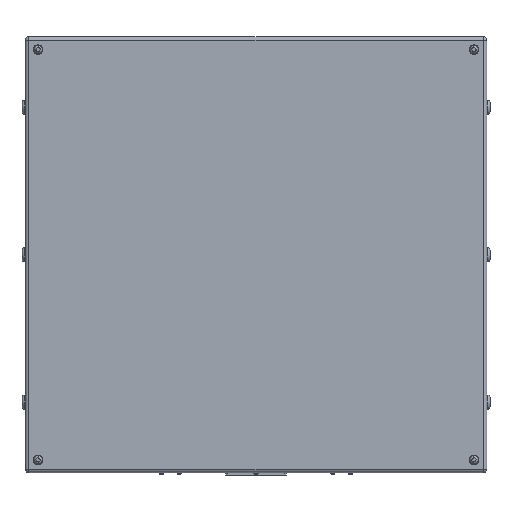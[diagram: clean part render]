
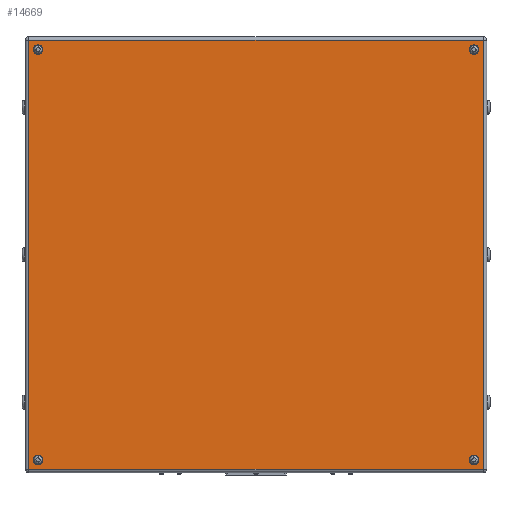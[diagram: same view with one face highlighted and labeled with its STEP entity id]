
A CAD part, front view. The second image highlights one B-rep face of the part: STEP entity #14669.
In plain terms, the highlighted planar face has unit normal (0, -1, 0).
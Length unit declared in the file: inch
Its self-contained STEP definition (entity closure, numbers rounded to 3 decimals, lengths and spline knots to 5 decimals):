
#57 = DIRECTION ( 'NONE',  ( 0., -1., 0. ) ) ;
#187 = DIRECTION ( 'NONE',  ( 0., 0., 1. ) ) ;
#259 = CARTESIAN_POINT ( 'NONE',  ( 0., -9., 0. ) ) ;
#268 = LINE ( 'NONE', #4791, #3465 ) ;
#317 = ORIENTED_EDGE ( 'NONE', *, *, #14671, .T. ) ;
#364 = CIRCLE ( 'NONE', #1766, 0.37402 ) ;
#512 = ORIENTED_EDGE ( 'NONE', *, *, #981, .F. ) ;
#700 = CARTESIAN_POINT ( 'NONE',  ( 17., -9., 16.37402 ) ) ;
#799 = CARTESIAN_POINT ( 'NONE',  ( 17.734, -9., 16.734 ) ) ;
#813 = VERTEX_POINT ( 'NONE', #12025 ) ;
#981 = EDGE_CURVE ( 'NONE', #14418, #6608, #13649, .T. ) ;
#1062 = ORIENTED_EDGE ( 'NONE', *, *, #4721, .F. ) ;
#1237 = CARTESIAN_POINT ( 'NONE',  ( -17., -9., -15.62598 ) ) ;
#1285 = VECTOR ( 'NONE', #13470, 39.37008 ) ;
#1585 = DIRECTION ( 'NONE',  ( 0., 0., -1. ) ) ;
#1766 = AXIS2_PLACEMENT_3D ( 'NONE', #2661, #13171, #3946 ) ;
#1869 = DIRECTION ( 'NONE',  ( 0., -1., 0. ) ) ;
#1904 = DIRECTION ( 'NONE',  ( 0., 0., -1. ) ) ;
#1933 = AXIS2_PLACEMENT_3D ( 'NONE', #3354, #12957, #187 ) ;
#2390 = CIRCLE ( 'NONE', #1933, 0.37402 ) ;
#2397 = DIRECTION ( 'NONE',  ( 0., -1., 0. ) ) ;
#2548 = CARTESIAN_POINT ( 'NONE',  ( 17.734, -9., -16.734 ) ) ;
#2661 = CARTESIAN_POINT ( 'NONE',  ( -17., -9., 16. ) ) ;
#2977 = LINE ( 'NONE', #7528, #1285 ) ;
#3188 = VERTEX_POINT ( 'NONE', #6455 ) ;
#3240 = ORIENTED_EDGE ( 'NONE', *, *, #5257, .F. ) ;
#3354 = CARTESIAN_POINT ( 'NONE',  ( 17., -9., -16. ) ) ;
#3423 = ORIENTED_EDGE ( 'NONE', *, *, #11223, .F. ) ;
#3465 = VECTOR ( 'NONE', #12099, 39.37008 ) ;
#3494 = CARTESIAN_POINT ( 'NONE',  ( -17.734, -9., -16.734 ) ) ;
#3520 = ORIENTED_EDGE ( 'NONE', *, *, #7744, .F. ) ;
#3592 = CARTESIAN_POINT ( 'NONE',  ( 17., -9., 16. ) ) ;
#3593 = EDGE_CURVE ( 'NONE', #813, #3188, #2390, .T. ) ;
#3652 = DIRECTION ( 'NONE',  ( 0., -1., 0. ) ) ;
#3674 = FACE_BOUND ( 'NONE', #13302, .T. ) ;
#3755 = PLANE ( 'NONE',  #7027 ) ;
#3946 = DIRECTION ( 'NONE',  ( 0., 0., -1. ) ) ;
#4005 = ORIENTED_EDGE ( 'NONE', *, *, #12600, .T. ) ;
#4033 = FACE_BOUND ( 'NONE', #8879, .T. ) ;
#4227 = ORIENTED_EDGE ( 'NONE', *, *, #4575, .T. ) ;
#4462 = EDGE_CURVE ( 'NONE', #7539, #11220, #12058, .T. ) ;
#4491 = CARTESIAN_POINT ( 'NONE',  ( -17., -9., 15.62598 ) ) ;
#4575 = EDGE_CURVE ( 'NONE', #11220, #7775, #2977, .T. ) ;
#4721 = EDGE_CURVE ( 'NONE', #3188, #813, #6519, .T. ) ;
#4791 = CARTESIAN_POINT ( 'NONE',  ( -17.734, -9., 16.734 ) ) ;
#4865 = CIRCLE ( 'NONE', #14478, 0.37402 ) ;
#4998 = DIRECTION ( 'NONE',  ( 0., 0., -1. ) ) ;
#5257 = EDGE_CURVE ( 'NONE', #10229, #13881, #9930, .T. ) ;
#5321 = DIRECTION ( 'NONE',  ( 0., -1., 0. ) ) ;
#5348 = AXIS2_PLACEMENT_3D ( 'NONE', #6510, #13218, #6375 ) ;
#5503 = ORIENTED_EDGE ( 'NONE', *, *, #3593, .F. ) ;
#5572 = AXIS2_PLACEMENT_3D ( 'NONE', #13602, #5321, #1904 ) ;
#5914 = DIRECTION ( 'NONE',  ( 0., 0., 1. ) ) ;
#6053 = AXIS2_PLACEMENT_3D ( 'NONE', #3592, #13894, #8153 ) ;
#6189 = CARTESIAN_POINT ( 'NONE',  ( -17.734, -9., -16.734 ) ) ;
#6375 = DIRECTION ( 'NONE',  ( 0., 0., 1. ) ) ;
#6455 = CARTESIAN_POINT ( 'NONE',  ( 17., -9., -15.62598 ) ) ;
#6510 = CARTESIAN_POINT ( 'NONE',  ( 17., -9., 16. ) ) ;
#6519 = CIRCLE ( 'NONE', #14689, 0.37402 ) ;
#6608 = VERTEX_POINT ( 'NONE', #8643 ) ;
#6752 = VERTEX_POINT ( 'NONE', #4491 ) ;
#6756 = CIRCLE ( 'NONE', #6053, 0.37402 ) ;
#7027 = AXIS2_PLACEMENT_3D ( 'NONE', #259, #1869, #10518 ) ;
#7106 = CARTESIAN_POINT ( 'NONE',  ( 17.734, -9., 16.734 ) ) ;
#7450 = DIRECTION ( 'NONE',  ( 0., 0., -1. ) ) ;
#7506 = EDGE_CURVE ( 'NONE', #13881, #10229, #6756, .T. ) ;
#7528 = CARTESIAN_POINT ( 'NONE',  ( 17.734, -9., -16.734 ) ) ;
#7539 = VERTEX_POINT ( 'NONE', #12834 ) ;
#7744 = EDGE_CURVE ( 'NONE', #6608, #14418, #4865, .T. ) ;
#7775 = VERTEX_POINT ( 'NONE', #2548 ) ;
#7844 = CARTESIAN_POINT ( 'NONE',  ( 17., -9., 15.62598 ) ) ;
#8153 = DIRECTION ( 'NONE',  ( 0., 0., 1. ) ) ;
#8180 = ORIENTED_EDGE ( 'NONE', *, *, #7506, .F. ) ;
#8608 = AXIS2_PLACEMENT_3D ( 'NONE', #12982, #2397, #4998 ) ;
#8643 = CARTESIAN_POINT ( 'NONE',  ( -17., -9., -16.37402 ) ) ;
#8721 = VERTEX_POINT ( 'NONE', #14009 ) ;
#8760 = FACE_BOUND ( 'NONE', #12262, .T. ) ;
#8879 = EDGE_LOOP ( 'NONE', ( #8180, #3240 ) ) ;
#8954 = VECTOR ( 'NONE', #5914, 39.37008 ) ;
#9070 = VECTOR ( 'NONE', #7450, 39.37008 ) ;
#9172 = DIRECTION ( 'NONE',  ( 0., 0., 1. ) ) ;
#9382 = FACE_OUTER_BOUND ( 'NONE', #13393, .T. ) ;
#9410 = ORIENTED_EDGE ( 'NONE', *, *, #11443, .F. ) ;
#9930 = CIRCLE ( 'NONE', #5348, 0.37402 ) ;
#10229 = VERTEX_POINT ( 'NONE', #7844 ) ;
#10307 = CARTESIAN_POINT ( 'NONE',  ( 17., -9., -16. ) ) ;
#10518 = DIRECTION ( 'NONE',  ( 0., 0., -1. ) ) ;
#11220 = VERTEX_POINT ( 'NONE', #3494 ) ;
#11223 = EDGE_CURVE ( 'NONE', #6752, #8721, #364, .T. ) ;
#11443 = EDGE_CURVE ( 'NONE', #8721, #6752, #14710, .T. ) ;
#11847 = CARTESIAN_POINT ( 'NONE',  ( -17., -9., -16. ) ) ;
#12025 = CARTESIAN_POINT ( 'NONE',  ( 17., -9., -16.37402 ) ) ;
#12058 = LINE ( 'NONE', #6189, #9070 ) ;
#12099 = DIRECTION ( 'NONE',  ( -1., 0., 0. ) ) ;
#12262 = EDGE_LOOP ( 'NONE', ( #1062, #5503 ) ) ;
#12313 = VERTEX_POINT ( 'NONE', #799 ) ;
#12600 = EDGE_CURVE ( 'NONE', #12313, #7539, #268, .T. ) ;
#12833 = LINE ( 'NONE', #7106, #8954 ) ;
#12834 = CARTESIAN_POINT ( 'NONE',  ( -17.734, -9., 16.734 ) ) ;
#12957 = DIRECTION ( 'NONE',  ( 0., -1., 0. ) ) ;
#12982 = CARTESIAN_POINT ( 'NONE',  ( -17., -9., -16. ) ) ;
#13146 = EDGE_LOOP ( 'NONE', ( #9410, #3423 ) ) ;
#13171 = DIRECTION ( 'NONE',  ( 0., -1., 0. ) ) ;
#13218 = DIRECTION ( 'NONE',  ( 0., -1., 0. ) ) ;
#13302 = EDGE_LOOP ( 'NONE', ( #512, #3520 ) ) ;
#13393 = EDGE_LOOP ( 'NONE', ( #317, #4005, #14177, #4227 ) ) ;
#13470 = DIRECTION ( 'NONE',  ( 1., 0., 0. ) ) ;
#13602 = CARTESIAN_POINT ( 'NONE',  ( -17., -9., 16. ) ) ;
#13649 = CIRCLE ( 'NONE', #8608, 0.37402 ) ;
#13881 = VERTEX_POINT ( 'NONE', #700 ) ;
#13894 = DIRECTION ( 'NONE',  ( 0., -1., 0. ) ) ;
#13963 = FACE_BOUND ( 'NONE', #13146, .T. ) ;
#14009 = CARTESIAN_POINT ( 'NONE',  ( -17., -9., 16.37402 ) ) ;
#14177 = ORIENTED_EDGE ( 'NONE', *, *, #4462, .T. ) ;
#14418 = VERTEX_POINT ( 'NONE', #1237 ) ;
#14478 = AXIS2_PLACEMENT_3D ( 'NONE', #11847, #3652, #1585 ) ;
#14669 = ADVANCED_FACE ( 'NONE', ( #4033, #8760, #13963, #3674, #9382 ), #3755, .T. ) ;
#14671 = EDGE_CURVE ( 'NONE', #7775, #12313, #12833, .T. ) ;
#14689 = AXIS2_PLACEMENT_3D ( 'NONE', #10307, #57, #9172 ) ;
#14710 = CIRCLE ( 'NONE', #5572, 0.37402 ) ;
